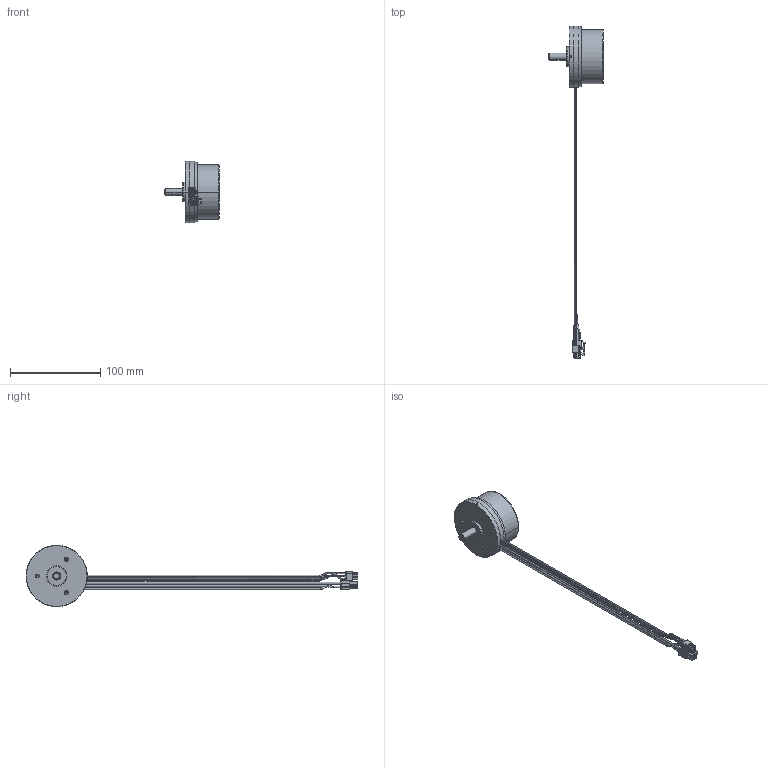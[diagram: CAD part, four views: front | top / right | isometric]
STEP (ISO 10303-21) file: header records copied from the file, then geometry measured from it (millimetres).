
FILE_DESCRIPTION((''),'2;1');
FILE_NAME('412823_EC60FL_100W_IP00','2016-10-10T',('mmagpetk'),(''),'CREO PARAMETRIC BY PTC INC, 2016050','CREO PARAMETRIC BY PTC INC, 2016050','');
FILE_SCHEMA(('CONFIG_CONTROL_DESIGN'));
Length unit declared in the file: millimetre
Products named in the file (1): 412823_EC60FL_100W_IP00
Bounding box: 61.3 x 368 x 68 mm (x, y, z)
Volume: 123110 mm3; surface area: 32874.8 mm2
Topology: 2 solids, 2 shells, 545 faces, 1442 edges, 912 vertices
Faces by surface type: plane 358, cylinder 109, torus 52, cone 26
Entity records: 24201 total; most frequent: CARTESIAN_POINT 3969, ORIENTED_EDGE 2868, DIRECTION 2752, PRESENTATION_STYLE_ASSIGNMENT 1703, STYLED_ITEM 1436, CURVE_STYLE 1434, EDGE_CURVE 1434, VECTOR 1098
